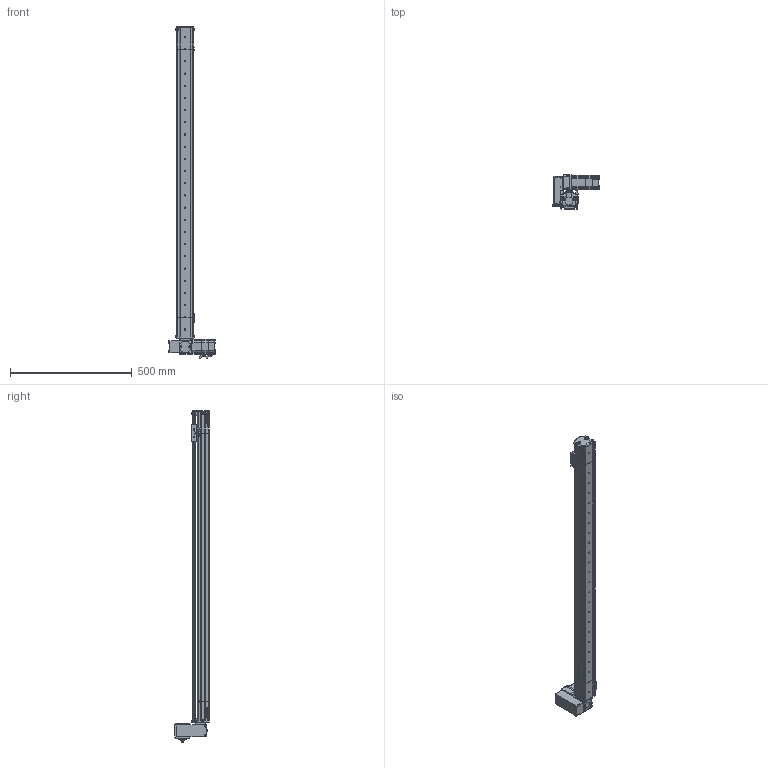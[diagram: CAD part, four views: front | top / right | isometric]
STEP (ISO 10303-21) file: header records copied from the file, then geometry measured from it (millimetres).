
FILE_DESCRIPTION (( 'STEP AP214' ), '1' );
FILE_NAME ('S07 TBN RT S1100.STEP', '2010-06-29T11:51:49', ( 'Conseil Régional Haute-Normandie' ), ( 'Conseil Régional Haute-Normandie' ), 'SwSTEP 2.0', 'SolidWorks 2010', '' );
FILE_SCHEMA (( 'AUTOMOTIVE_DESIGN' ));
Length unit declared in the file: millimetre
Products named in the file (41): Axe 60BLDC_Default; vis M5 L16_Default; Chariot; CHariot_Default; couroie tail_Default; guide; vis M5 L12_Default; Poulie_Default; T皻e de poulie_Default; corp tail TB_Default; S07 TB tail (78)_Default; Vis M5 L16-2_Default; couvercle tail TB; plaque de bout_Default; Cvis M5 L30_Default; VisM3_Default; Conecteur2 60BLDC_Default; Conecteur 60BLDC_Default; S07 TBN RT S1100; Couroie  course 1100_Default; Corp S07 course 1100_Default; Course C L1100_Default; corp moteur TB(146)_Default; S07 RT(146)_Default; couvercle S07 course 1100 ; cache t皻e axe_Default; couvercle moteur S07 TB; plaque de bout RT_Default; vis M5 L5_Default; cache t皻e_Default; Poulie head_Default; Plaque racord_Default; Couroie t皻e_Default; Pièce5^S07 RT(146); P1_Default; GMB 60 90 310_Default; renvoi RT_Default; P4_Default; P3 90A_Default; P2 90A_Default
Assembly tree (80 placements, depth 4):
  S07 TBN RT S1100
    Course C L1100_Default
      couvercle S07 course 1100 
      Corp S07 course 1100_Default
      Couroie  course 1100_Default
    CHariot_Default
      vis M5 L16_Default  x2
      guide
      Chariot
    S07 TB tail (78)_Default
      vis M5 L12_Default  x10
      Poulie_Default
        T皻e de poulie_Default
        Poulie_Default
      couvercle tail TB
      corp tail TB_Default
      couroie tail_Default
      plaque de bout_Default
    S07 RT(146)_Default
      vis M5 L12_Default  x6
      vis M5 L5_Default  x6
      Vis M5 L16-2_Default  x8
      cache t皻e axe_Default
      Cvis M5 L30_Default  x2
      Plaque racord_Default
      cache t皻e_Default  x2
      plaque de bout RT_Default
      GMB 60 90 310_Default
        VisM3_Default  x12
        Conecteur2 60BLDC_Default
        P2 90A_Default
        P4_Default
        Axe 60BLDC_Default
        P1_Default
        P3 90A_Default
        Conecteur 60BLDC_Default
      corp moteur TB(146)_Default
      renvoi RT_Default
      couvercle moteur S07 TB
      Couroie t皻e_Default
      Poulie head_Default
  Pièce5^S07 RT(146)
Bounding box: 190.2 x 139.5 x 1362 mm (x, y, z)
Volume: 2814350 mm3; surface area: 1204924.7 mm2
Topology: 102 solids, 102 shells, 3940 faces, 9804 edges, 6333 vertices
Faces by surface type: plane 2236, cylinder 774, bspline 677, cone 125, torus 124, sphere 4
Entity records: 167669 total; most frequent: CARTESIAN_POINT 75271, ORIENTED_EDGE 15520, DIRECTION 12387, EDGE_CURVE 7760, VERTEX_POINT 5121, LINE 5057, VECTOR 5057, AXIS2_PLACEMENT_3D 3665
